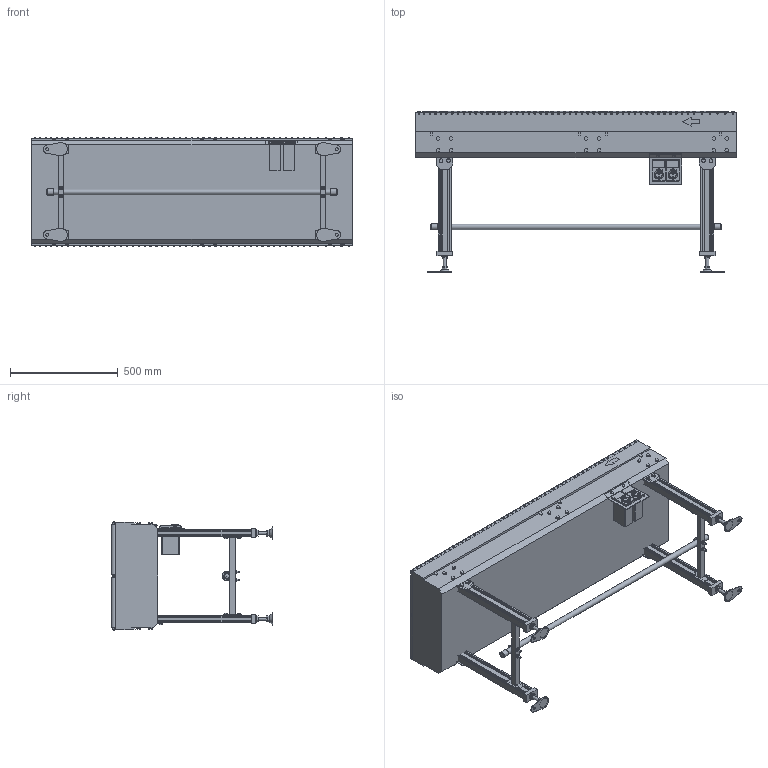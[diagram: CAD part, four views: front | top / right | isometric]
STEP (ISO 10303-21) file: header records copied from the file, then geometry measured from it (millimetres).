
FILE_DESCRIPTION (( 'STEP AP214' ), '1' );
FILE_NAME ('GA22-304x2-400-150-DC-7.5.STEP', '2024-08-08T23:11:56', ( '' ), ( '' ), 'SwSTEP 2.0', 'SolidWorks 2017', '' );
FILE_SCHEMA (( 'AUTOMOTIVE_DESIGN' ));
Length unit declared in the file: millimetre
Products named in the file (1): GA22-304x2-400-150-DC-7.5
Bounding box: 1490 x 750 x 505.61 mm (x, y, z)
Volume: 158342185.2 mm3; surface area: 5260135.8 mm2
Topology: 19 solids, 19 shells, 2515 faces, 6014 edges, 3986 vertices
Faces by surface type: plane 1758, cylinder 723, cone 18, torus 16
Full cylindrical faces by diameter (mm): 4.5 x8, 6 x106, 7 x4, 8 x212, 8.723 x8, 12.2 x2, 13 x4, 15.4 x40, 16 x8, 17 x12, 25.4 x1, 28.4 x2, 29.825 x2, 30 x4
Entity records: 69909 total; most frequent: CARTESIAN_POINT 13783, DIRECTION 11321, ORIENTED_EDGE 10858, EDGE_CURVE 5429, VERTEX_POINT 3840, AXIS2_PLACEMENT_3D 3816, LINE 3689, VECTOR 3689
